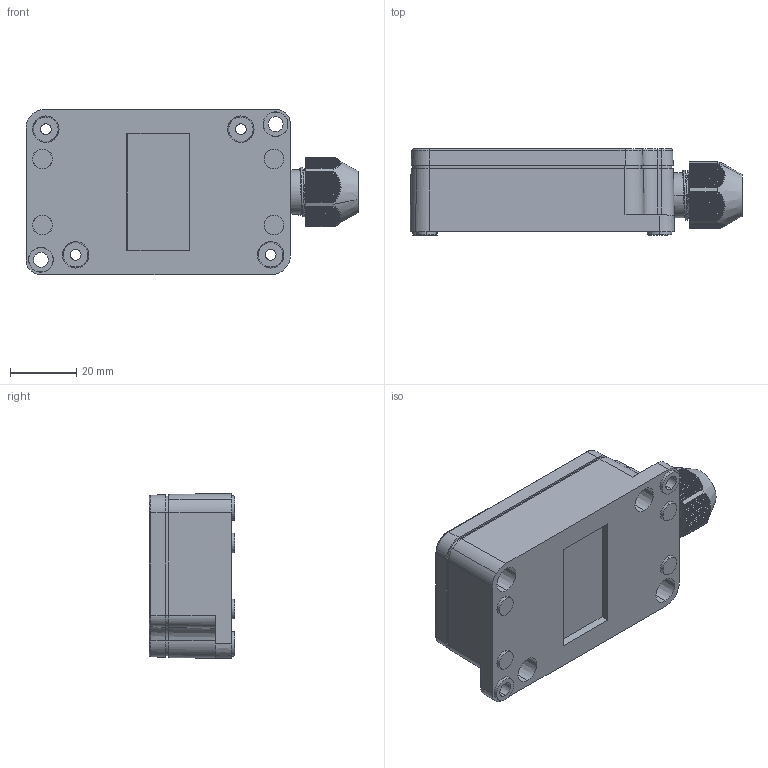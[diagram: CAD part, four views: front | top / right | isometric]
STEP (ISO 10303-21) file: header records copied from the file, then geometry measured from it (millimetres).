
FILE_DESCRIPTION (( 'STEP AP203' ), '1' );
FILE_NAME ('TB-204-C.STEP', '2022-10-19T07:57:43', ( '' ), ( '' ), 'SwSTEP 2.0', 'SolidWorks 2021', '' );
FILE_SCHEMA (( 'CONFIG_CONTROL_DESIGN' ));
Length unit declared in the file: millimetre
Products named in the file (3): govde; TB-204-C; CAP_PG9_cable_gland
Assembly tree (2 placements, depth 2):
  TB-204-C
    govde
    CAP_PG9_cable_gland
Bounding box: 100.43 x 26 x 50 mm (x, y, z)
Volume: 37069.2 mm3; surface area: 36347.6 mm2
Topology: 4 solids, 4 shells, 767 faces, 2128 edges, 1418 vertices
Faces by surface type: plane 400, cylinder 216, cone 116, bspline 35
Entity records: 39397 total; most frequent: CARTESIAN_POINT 20410, ORIENTED_EDGE 4256, DIRECTION 3358, EDGE_CURVE 2128, VERTEX_POINT 1418, LINE 1122, VECTOR 1122, AXIS2_PLACEMENT_3D 1118
